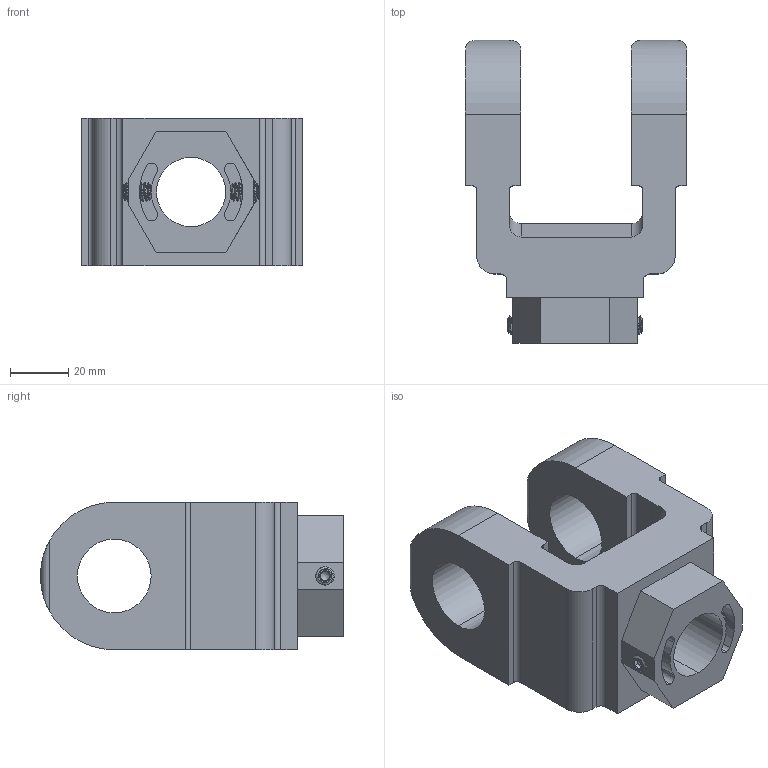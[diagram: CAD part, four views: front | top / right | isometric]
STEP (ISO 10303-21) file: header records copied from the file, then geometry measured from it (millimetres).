
FILE_DESCRIPTION (( 'STEP AP214' ), '1' );
FILE_NAME ('RC 1000.STEP', '2011-12-06T02:55:34', ( '' ), ( '' ), 'SwSTEP 2.0', 'SolidWorks 2010', '' );
FILE_SCHEMA (( 'AUTOMOTIVE_DESIGN' ));
Length unit declared in the file: inch
Products named in the file (3): RC 1000 Clevis; 25 375 SET SCREW; RC 1000
Assembly tree (3 placements, depth 2):
  RC 1000
    RC 1000 Clevis
    25 375 SET SCREW  x2
Bounding box: 76.2 x 104.38 x 50.8 mm (x, y, z)
Volume: 161582.8 mm3; surface area: 35868.5 mm2
Topology: 3 solids, 3 shells, 204 faces, 532 edges, 338 vertices
Faces by surface type: cylinder 100, plane 70, cone 26, bspline 8
Entity records: 6487 total; most frequent: CARTESIAN_POINT 2930, ORIENTED_EDGE 762, DIRECTION 647, EDGE_CURVE 381, VERTEX_POINT 245, AXIS2_PLACEMENT_3D 227, VECTOR 193, LINE 193
